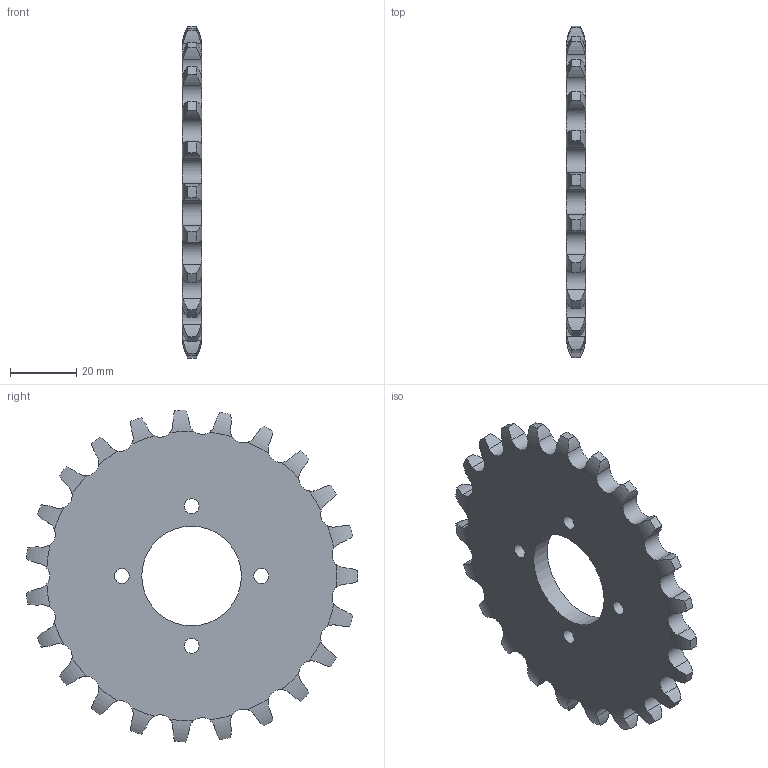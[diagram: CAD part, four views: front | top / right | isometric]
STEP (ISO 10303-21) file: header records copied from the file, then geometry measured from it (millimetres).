
FILE_DESCRIPTION(/* description */ (''),/* implementation_level */ '2;1');
FILE_NAME(/* name */ 'C:\Users\거성\Desktop\610505E1008\610505E1008-스프로킷.stp',/* time_stamp */ '2021-05-15T11:03:29+09:00',/* author */ ('거성'),/* organization */ (''),/* preprocessor_version */ 'ST-DEVELOPER v15.2',/* originating_system */ 'Autodesk Inventor 2014',/* authorisation */ '');
FILE_SCHEMA (('AUTOMOTIVE_DESIGN { 1 0 10303 214 3 1 1 }'));
Length unit declared in the file: millimetre
Products named in the file (1): 610505E1008-스프로킷
Bounding box: 5.8 x 99.73 x 99.94 mm (x, y, z)
Volume: 33328.3 mm3; surface area: 15037 mm2
Topology: 1 solids, 1 shells, 145 faces, 433 edges, 290 vertices
Faces by surface type: cylinder 97, torus 46, plane 2
Full cylindrical faces by diameter (mm): 4.5 x4, 30 x1
Entity records: 5694 total; most frequent: CARTESIAN_POINT 2008, ORIENTED_EDGE 848, DIRECTION 680, EDGE_CURVE 424, AXIS2_PLACEMENT_3D 294, VERTEX_POINT 286, B_SPLINE_CURVE_WITH_KNOTS 184, EDGE_LOOP 160
